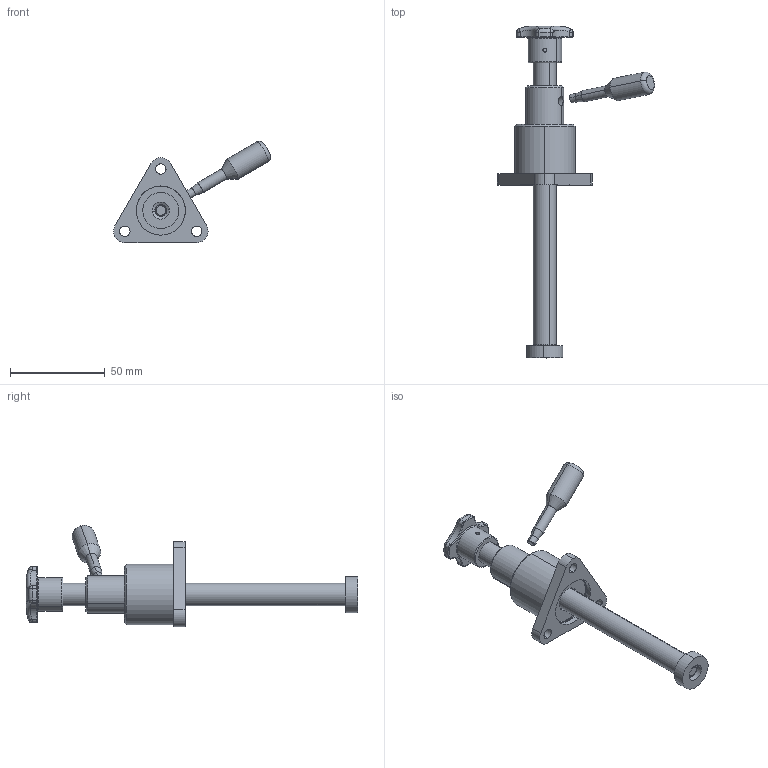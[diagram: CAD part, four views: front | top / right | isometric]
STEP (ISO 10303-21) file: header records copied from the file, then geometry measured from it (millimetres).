
FILE_DESCRIPTION (( 'STEP AP203' ), '1' );
FILE_NAME ('KFRF-12.STEP', '2015-07-20T14:09:29', ( 'Ricardo' ), ( '' ), 'SwSTEP 2.0', 'SolidWorks 2014', '' );
FILE_SCHEMA (( 'CONFIG_CONTROL_DESIGN' ));
Length unit declared in the file: millimetre
Products named in the file (13): 16.20122; 18.30004 B; KFRF-12; 18.30004 C; 15.30007; 15.30008; 02.30019; 15.30009; 15.30004; 12.50110; 18.30004 A; 13.20001; 20.20052
Assembly tree (12 placements, depth 2):
  KFRF-12
    02.30019
    15.30004
    18.30004 A
    18.30004 B
    18.30004 C
    15.30007
    15.30008
    15.30009
    12.50110
    13.20001
    20.20052
    16.20122
Bounding box: 82.96 x 175.35 x 53.52 mm (x, y, z)
Volume: 52582.5 mm3; surface area: 31028.6 mm2
Topology: 12 solids, 12 shells, 437 faces, 1130 edges, 723 vertices
Faces by surface type: cylinder 162, bspline 108, plane 88, cone 40, torus 31, sphere 8
Entity records: 116949 total; most frequent: CARTESIAN_POINT 105962, ORIENTED_EDGE 2260, DIRECTION 1754, EDGE_CURVE 1130, VERTEX_POINT 723, AXIS2_PLACEMENT_3D 697, EDGE_LOOP 469, ADVANCED_FACE 437
